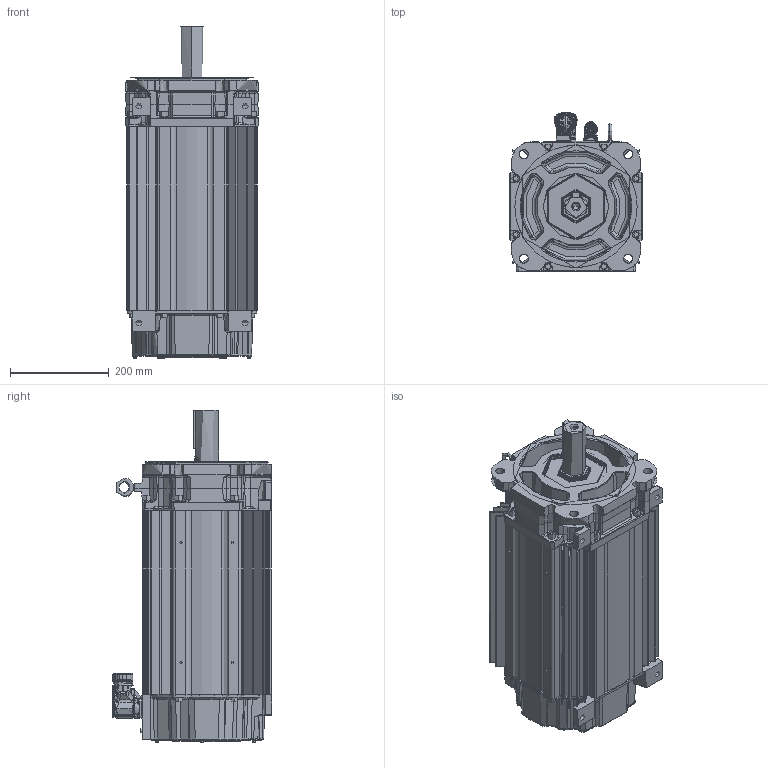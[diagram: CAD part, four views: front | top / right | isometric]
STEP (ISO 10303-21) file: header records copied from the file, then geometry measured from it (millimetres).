
FILE_DESCRIPTION((''),'2;1');
FILE_NAME('VPCB3003XXX4AS_ASM','2020-01-16T13:30:43',('VThimma'),('Rockwell Automation'),'CREO PARAMETRIC BY PTC INC, 2017380','CREO PARAMETRIC BY PTC INC, 2017380','');
FILE_SCHEMA(('CONFIG_CONTROL_DESIGN','SHAPE_APPEARANCE_LAYERS_GROUPS'));
Products named in the file (26): 10001441962; 10001404634_AF0; 10001404629_AF6; 10001404635_ASM; 10001585735; 10001442012_ASM; 10001439798; 10001440031_ASM; 10001405269_AF0; 10001405367_ASM; 10001586887; 0002-5004; 10001609981; 10001737030; 10000014325-2; 10000014331; 10000014332-460; 10000014330-460_ASM; 10000172464; PWR40CONN-BRK; PWR40BASE; 10000806125_ASM; 221404-Q12; 10001408124; 0011-2084; VPCB3003XXX4AS_ASM
Assembly tree (51 placements, depth 4):
  VPCB3003XXX4AS_ASM
    10001442012_ASM
      10001441962
      10001404635_ASM
        10001404634_AF0
        10001404629_AF6
      10001585735  x8
    10001440031_ASM
      10001439798
    10001405367_ASM
      10001405269_AF0
    10001586887  x7
    0002-5004  x2
    10001609981
    10001737030
    10000014330-460_ASM
      10000014325-2
      10000014331
      10000014332-460
    10000172464  x4
    10000806125_ASM
      PWR40CONN-BRK
      PWR40BASE
    221404-Q12  x10
    10001408124
    0011-2084
Bounding box: 269.49 x 324.05 x 673.83 mm (x, y, z)
Topology: 0 solids, 62 shells, 7054 faces, 18345 edges, 11407 vertices
Faces by surface type: cylinder 2227, plane 1659, bspline 1506, torus 877, cone 579, sphere 163, extrusion 42, revolution 1
Entity records: 357491 total; most frequent: CARTESIAN_POINT 136707, ORIENTED_EDGE 30203, DIRECTION 25519, PRESENTATION_STYLE_ASSIGNMENT 20971, STYLED_ITEM 20971, CURVE_STYLE 15211, EDGE_CURVE 15169, AXIS2_PLACEMENT_3D 10350
